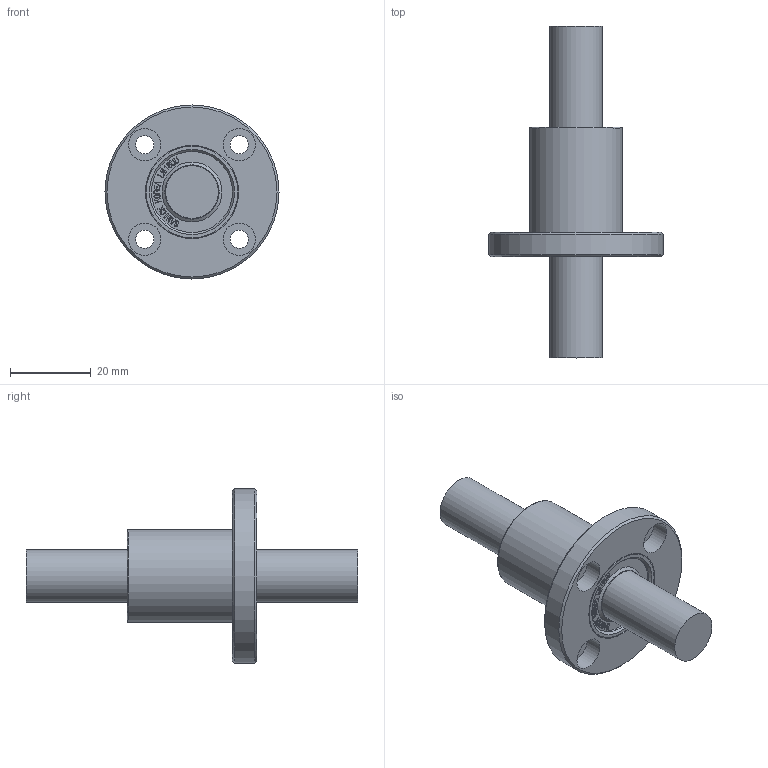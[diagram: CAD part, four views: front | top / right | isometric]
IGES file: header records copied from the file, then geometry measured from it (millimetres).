
Global section: file name: No Iges File Name specified; native system: Autodesk Inventor 2012; preprocessor: AutoDesk Inventor Iges Exporter R2012; author: user2; date: 20130206.160250; units: millimetre
Bounding box: 43 x 82 x 43 mm (x, y, z)
Volume: 24777 mm3; surface area: 8145.6 mm2
Topology: 1 solids, 1 shells, 853 faces, 2387 edges, 1590 vertices
Faces by surface type: bspline 604, plane 226, revolution 13, cone 4, cylinder 4, torus 2
Full cylindrical faces by diameter (mm): 13 x2, 23 x1, 43 x1
